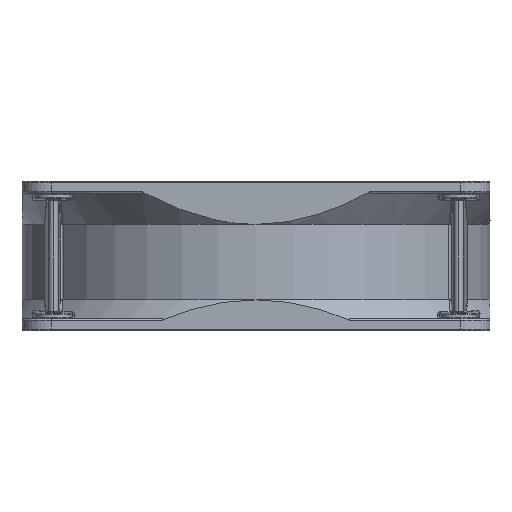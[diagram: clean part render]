
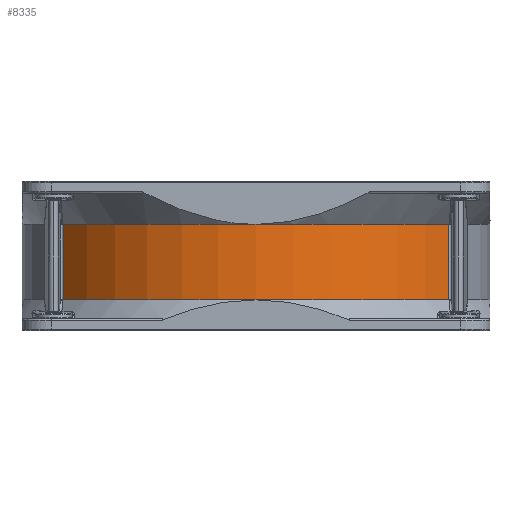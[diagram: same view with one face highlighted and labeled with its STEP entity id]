
A CAD part, front view. The second image highlights one B-rep face of the part: STEP entity #8335.
In plain terms, the highlighted cylindrical face has radius 80 mm (diameter 160 mm), a partial arc.
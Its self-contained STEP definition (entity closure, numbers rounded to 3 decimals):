
#595 = EDGE_CURVE ( 'NONE', #62283, #22788, #64944, .T. ) ;
#782 = CARTESIAN_POINT ( 'NONE',  ( 0., 0., -56.002 ) ) ;
#1473 = DIRECTION ( 'NONE',  ( 0., 0., 1. ) ) ;
#2998 = CARTESIAN_POINT ( 'NONE',  ( -65.974, -45.249, -56.002 ) ) ;
#4365 = ORIENTED_EDGE ( 'NONE', *, *, #72313, .T. ) ;
#6591 = VERTEX_POINT ( 'NONE', #57413 ) ;
#7816 = AXIS2_PLACEMENT_3D ( 'NONE', #782, #51593, #20477 ) ;
#7909 = AXIS2_PLACEMENT_3D ( 'NONE', #59835, #1473, #79635 ) ;
#8335 = ADVANCED_FACE ( 'NONE', ( #19675 ), #50768, .T. ) ;
#10759 = DIRECTION ( 'NONE',  ( -1., 0., 0. ) ) ;
#14773 = EDGE_LOOP ( 'NONE', ( #56988, #23863, #4365, #38582, #25872, #36527 ) ) ;
#16130 = CARTESIAN_POINT ( 'NONE',  ( 0., -80., -14.7 ) ) ;
#17573 = DIRECTION ( 'NONE',  ( 0., 0., 1. ) ) ;
#19675 = FACE_OUTER_BOUND ( 'NONE', #14773, .T. ) ;
#20477 = DIRECTION ( 'NONE',  ( -1., 0., 0. ) ) ;
#21781 = AXIS2_PLACEMENT_3D ( 'NONE', #27701, #23042, #78988 ) ;
#22788 = VERTEX_POINT ( 'NONE', #67894 ) ;
#23042 = DIRECTION ( 'NONE',  ( 0., 0., 1. ) ) ;
#23863 = ORIENTED_EDGE ( 'NONE', *, *, #595, .T. ) ;
#24686 = EDGE_CURVE ( 'NONE', #6591, #32265, #27090, .T. ) ;
#25872 = ORIENTED_EDGE ( 'NONE', *, *, #52652, .F. ) ;
#27090 = CIRCLE ( 'NONE', #21781, 80. ) ;
#27701 = CARTESIAN_POINT ( 'NONE',  ( 0., 0., -14.7 ) ) ;
#28211 = DIRECTION ( 'NONE',  ( 0., 0., -1. ) ) ;
#29688 = EDGE_CURVE ( 'NONE', #67216, #57862, #43623, .T. ) ;
#32265 = VERTEX_POINT ( 'NONE', #16130 ) ;
#33147 = CARTESIAN_POINT ( 'NONE',  ( 65.974, -45.249, -40.5 ) ) ;
#36527 = ORIENTED_EDGE ( 'NONE', *, *, #24686, .F. ) ;
#38582 = ORIENTED_EDGE ( 'NONE', *, *, #29688, .T. ) ;
#40009 = CARTESIAN_POINT ( 'NONE',  ( 0., 0., -14.7 ) ) ;
#43623 = LINE ( 'NONE', #50740, #64391 ) ;
#44142 = CIRCLE ( 'NONE', #7909, 80. ) ;
#44666 = DIRECTION ( 'NONE',  ( 1., 0., 0. ) ) ;
#48788 = AXIS2_PLACEMENT_3D ( 'NONE', #75936, #63713, #10759 ) ;
#50080 = CARTESIAN_POINT ( 'NONE',  ( 65.974, -45.249, -14.7 ) ) ;
#50740 = CARTESIAN_POINT ( 'NONE',  ( 65.974, -45.249, -56.002 ) ) ;
#50768 = CYLINDRICAL_SURFACE ( 'NONE', #7816, 80. ) ;
#51593 = DIRECTION ( 'NONE',  ( 0., 0., -1. ) ) ;
#52568 = LINE ( 'NONE', #2998, #54011 ) ;
#52652 = EDGE_CURVE ( 'NONE', #32265, #57862, #76355, .T. ) ;
#54011 = VECTOR ( 'NONE', #28211, 1000. ) ;
#56988 = ORIENTED_EDGE ( 'NONE', *, *, #80572, .T. ) ;
#57413 = CARTESIAN_POINT ( 'NONE',  ( -65.974, -45.249, -14.7 ) ) ;
#57862 = VERTEX_POINT ( 'NONE', #50080 ) ;
#59835 = CARTESIAN_POINT ( 'NONE',  ( 0., 0., -40.5 ) ) ;
#62283 = VERTEX_POINT ( 'NONE', #79036 ) ;
#63713 = DIRECTION ( 'NONE',  ( 0., 0., 1. ) ) ;
#64391 = VECTOR ( 'NONE', #17573, 1000. ) ;
#64418 = DIRECTION ( 'NONE',  ( 0., 0., 1. ) ) ;
#64944 = CIRCLE ( 'NONE', #48788, 80. ) ;
#67216 = VERTEX_POINT ( 'NONE', #33147 ) ;
#67894 = CARTESIAN_POINT ( 'NONE',  ( 0., -80., -40.5 ) ) ;
#72310 = AXIS2_PLACEMENT_3D ( 'NONE', #40009, #64418, #44666 ) ;
#72313 = EDGE_CURVE ( 'NONE', #22788, #67216, #44142, .T. ) ;
#75936 = CARTESIAN_POINT ( 'NONE',  ( 0., 0., -40.5 ) ) ;
#76355 = CIRCLE ( 'NONE', #72310, 80. ) ;
#78988 = DIRECTION ( 'NONE',  ( 1., 0., 0. ) ) ;
#79036 = CARTESIAN_POINT ( 'NONE',  ( -65.974, -45.249, -40.5 ) ) ;
#79635 = DIRECTION ( 'NONE',  ( -1., 0., 0. ) ) ;
#80572 = EDGE_CURVE ( 'NONE', #6591, #62283, #52568, .T. ) ;
